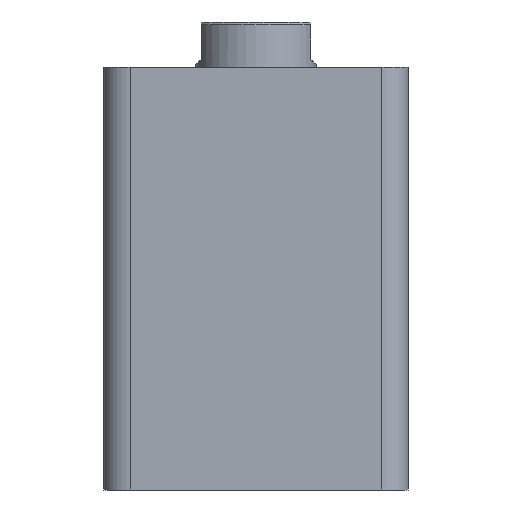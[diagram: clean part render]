
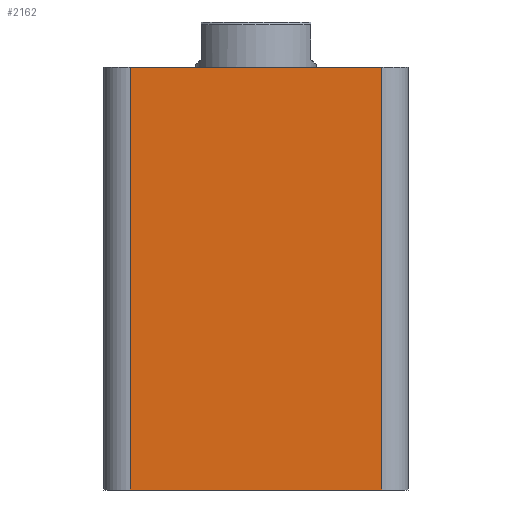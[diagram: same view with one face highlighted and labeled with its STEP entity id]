
A CAD part, front view. The second image highlights one B-rep face of the part: STEP entity #2162.
In plain terms, the highlighted planar face has unit normal (0, -1, 0).
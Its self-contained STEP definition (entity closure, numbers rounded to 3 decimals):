
#58 = VERTEX_POINT ( 'NONE', #485 ) ;
#90 = VERTEX_POINT ( 'NONE', #490 ) ;
#98 = VERTEX_POINT ( 'NONE', #475 ) ;
#111 = VERTEX_POINT ( 'NONE', #452 ) ;
#452 = CARTESIAN_POINT ( 'NONE',  ( -47., -57., 158. ) ) ;
#475 = CARTESIAN_POINT ( 'NONE',  ( 47., -57., 158. ) ) ;
#485 = CARTESIAN_POINT ( 'NONE',  ( -47., -57., 0. ) ) ;
#490 = CARTESIAN_POINT ( 'NONE',  ( 47., -57., 0. ) ) ;
#792 = EDGE_CURVE ( 'NONE', #58, #90, #1191, .T. ) ;
#795 = EDGE_CURVE ( 'NONE', #111, #98, #1192, .T. ) ;
#812 = EDGE_CURVE ( 'NONE', #90, #98, #1215, .T. ) ;
#827 = EDGE_CURVE ( 'NONE', #111, #58, #1231, .T. ) ;
#981 = DIRECTION ( 'NONE',  ( 1., 0., 0. ) ) ;
#985 = CARTESIAN_POINT ( 'NONE',  ( -57., -57., 0. ) ) ;
#989 = DIRECTION ( 'NONE',  ( 1., 0., 0. ) ) ;
#993 = CARTESIAN_POINT ( 'NONE',  ( -57., -57., 158. ) ) ;
#1037 = CARTESIAN_POINT ( 'NONE',  ( 47., -57., 158. ) ) ;
#1038 = DIRECTION ( 'NONE',  ( 0., 0., 1. ) ) ;
#1078 = DIRECTION ( 'NONE',  ( 0., 0., -1. ) ) ;
#1082 = CARTESIAN_POINT ( 'NONE',  ( -47., -57., 158. ) ) ;
#1191 = LINE ( 'NONE', #985, #1193 ) ;
#1192 = LINE ( 'NONE', #993, #1197 ) ;
#1193 = VECTOR ( 'NONE', #981, 1000. ) ;
#1197 = VECTOR ( 'NONE', #989, 1000. ) ;
#1215 = LINE ( 'NONE', #1037, #1217 ) ;
#1217 = VECTOR ( 'NONE', #1038, 1000. ) ;
#1231 = LINE ( 'NONE', #1082, #1236 ) ;
#1236 = VECTOR ( 'NONE', #1078, 1000. ) ;
#1357 = FACE_OUTER_BOUND ( 'NONE', #1812, .T. ) ;
#1511 = AXIS2_PLACEMENT_3D ( 'NONE', #2073, #2082, #2083 ) ;
#1672 = ORIENTED_EDGE ( 'NONE', *, *, #792, .T. ) ;
#1708 = ORIENTED_EDGE ( 'NONE', *, *, #812, .T. ) ;
#1709 = ORIENTED_EDGE ( 'NONE', *, *, #795, .F. ) ;
#1770 = ORIENTED_EDGE ( 'NONE', *, *, #827, .T. ) ;
#1812 = EDGE_LOOP ( 'NONE', ( #1672, #1708, #1709, #1770 ) ) ;
#2073 = CARTESIAN_POINT ( 'NONE',  ( -57., -57., 158. ) ) ;
#2079 = PLANE ( 'NONE',  #1511 ) ;
#2082 = DIRECTION ( 'NONE',  ( 0., 1., 0. ) ) ;
#2083 = DIRECTION ( 'NONE',  ( 0., 0., 1. ) ) ;
#2162 = ADVANCED_FACE ( 'NONE', ( #1357 ), #2079, .F. ) ;
